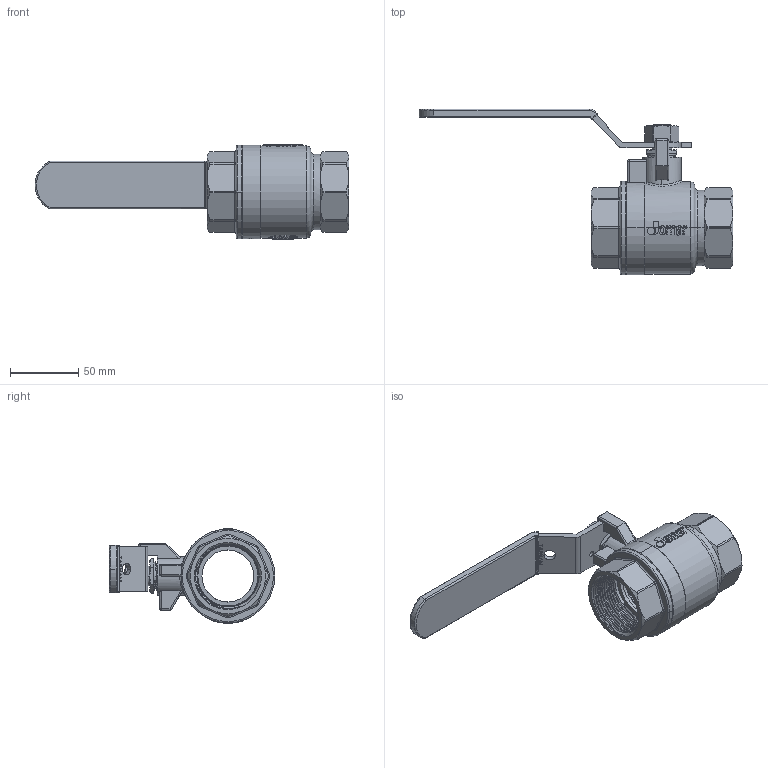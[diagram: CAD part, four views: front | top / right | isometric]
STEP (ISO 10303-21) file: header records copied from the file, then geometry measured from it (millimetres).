
FILE_DESCRIPTION (( 'STEP AP203' ), '1' );
FILE_NAME ('ABL707-無掛鎖-1.5''''JOMAR球閥組合-無鉛-2025.STEP', '2025-06-25T06:41:05', ( '' ), ( '' ), 'SwSTEP 2.0', 'SolidWorks 2018', '' );
FILE_SCHEMA (( 'CONFIG_CONTROL_DESIGN' ));
Length unit declared in the file: millimetre
Products named in the file (13): BBL707A-1.5''''JOMAR球閥八角頭-無鉛無插溝-增加V槽減肉; TBL268A; GBL218; RBL267; DN40-DN50-CBL707-無掛鎖把手組合-白色膠套 T-200CSSG; EBL208B; EBL307; EBL208C; DN50-CBL238白色膠套-T-200CSSG; ABL707-無掛鎖-1.5''''JOMAR球閥組合-無鉛-2025; CBL238; BBL707-1.5''''JOMAR球閥體-無鉛-表面無插溝; NBL268
Assembly tree (13 placements, depth 3):
  ABL707-無掛鎖-1.5''''JOMAR球閥組合-無鉛-2025
    BBL707-1.5''''JOMAR球閥體-無鉛-表面無插溝
    RBL267
    EBL208C
    GBL218
    EBL208B
    TBL268A
    BBL707A-1.5''''JOMAR球閥八角頭-無鉛無插溝-增加V槽減肉
    NBL268
    EBL307  x2
    DN40-DN50-CBL707-無掛鎖把手組合-白色膠套 T-200CSSG
      CBL238
      DN50-CBL238白色膠套-T-200CSSG
Bounding box: 229.35 x 120.97 x 69 mm (x, y, z)
Volume: 214365.8 mm3; surface area: 121871.9 mm2
Topology: 18 solids, 18 shells, 2332 faces, 6218 edges, 4091 vertices
Faces by surface type: plane 1195, bspline 650, cylinder 300, cone 137, torus 36, sphere 14
Entity records: 127011 total; most frequent: CARTESIAN_POINT 73073, ORIENTED_EDGE 12360, DIRECTION 8304, EDGE_CURVE 6180, VERTEX_POINT 4071, VECTOR 3754, LINE 3754, EDGE_LOOP 2525
